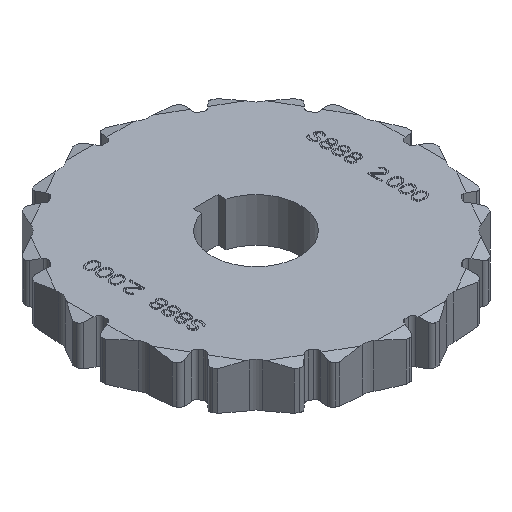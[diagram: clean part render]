
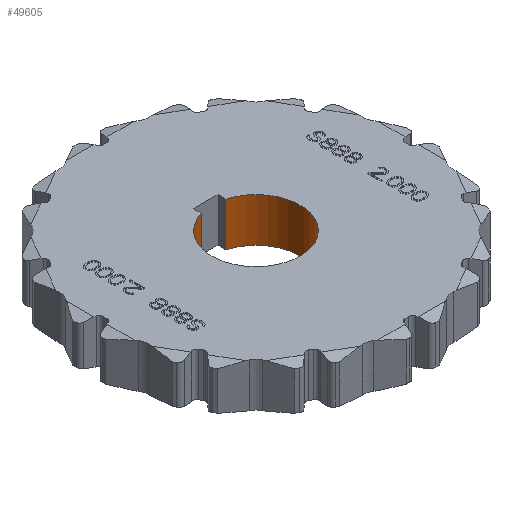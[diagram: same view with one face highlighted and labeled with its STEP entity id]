
A CAD part, isometric view. The second image highlights one B-rep face of the part: STEP entity #49605.
In plain terms, the highlighted cylindrical face has radius 25.006 mm (diameter 50.013 mm), a partial arc.
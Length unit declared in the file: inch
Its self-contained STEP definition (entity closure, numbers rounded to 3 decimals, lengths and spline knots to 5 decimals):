
#15813=CARTESIAN_POINT('',(0.,0.,-0.49));
#15814=DIRECTION('',(0.,0.,1.));
#15815=DIRECTION('',(-0.28,0.96,0.));
#15816=AXIS2_PLACEMENT_3D('',#15813,#15814,#15815);
#15818=DIRECTION('',(0.,0.,1.));
#15819=VECTOR('',#15818,0.98);
#15820=CARTESIAN_POINT('',(0.2755,0.94517,-0.49));
#15821=LINE('',#15820,#15819);
#15822=CARTESIAN_POINT('',(0.,0.,0.49));
#15823=DIRECTION('',(0.,0.,-1.));
#15824=DIRECTION('',(0.28,0.96,0.));
#15825=AXIS2_PLACEMENT_3D('',#15822,#15823,#15824);
#15827=DIRECTION('',(0.,0.,1.));
#15828=VECTOR('',#15827,0.98);
#15829=CARTESIAN_POINT('',(-0.2755,0.94517,-0.49));
#15830=LINE('',#15829,#15828);
#29916=CARTESIAN_POINT('',(-0.2755,0.94517,-0.49));
#29918=VERTEX_POINT('',#29916);
#29919=CARTESIAN_POINT('',(0.2755,0.94517,-0.49));
#29921=VERTEX_POINT('',#29919);
#29924=CARTESIAN_POINT('',(-0.2755,0.94517,0.49));
#29926=VERTEX_POINT('',#29924);
#29927=CARTESIAN_POINT('',(0.2755,0.94517,0.49));
#29929=VERTEX_POINT('',#29927);
#49593=CARTESIAN_POINT('',(0.,0.,0.588));
#49594=DIRECTION('',(0.,0.,1.));
#49595=DIRECTION('',(1.,0.,0.));
#49596=AXIS2_PLACEMENT_3D('',#49593,#49594,#49595);
#49597=CYLINDRICAL_SURFACE('',#49596,0.9845);
#49598=ORIENTED_EDGE('',*,*,#31284,.T.);
#49600=ORIENTED_EDGE('',*,*,#49599,.T.);
#49601=ORIENTED_EDGE('',*,*,#33396,.T.);
#49602=ORIENTED_EDGE('',*,*,#49585,.F.);
#49603=EDGE_LOOP('',(#49598,#49600,#49601,#49602));
#49604=FACE_OUTER_BOUND('',#49603,.F.);
#49605=ADVANCED_FACE('',(#49604),#49597,.F.);
#15817=CIRCLE('',#15816,0.9845);
#15826=CIRCLE('',#15825,0.9845);
#31284=EDGE_CURVE('',#29918,#29921,#15817,.T.);
#33396=EDGE_CURVE('',#29929,#29926,#15826,.T.);
#49585=EDGE_CURVE('',#29918,#29926,#15830,.T.);
#49599=EDGE_CURVE('',#29921,#29929,#15821,.T.);
